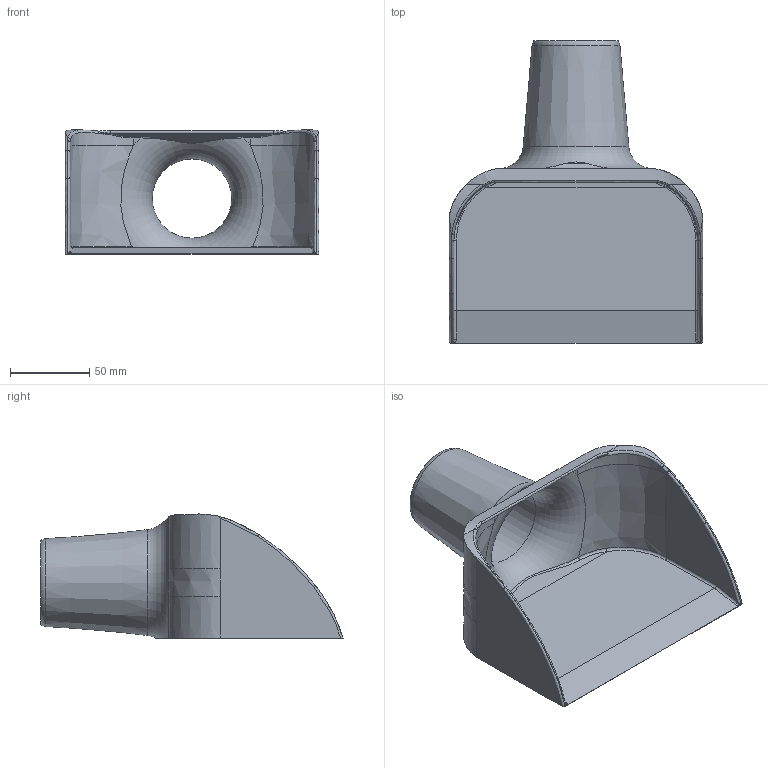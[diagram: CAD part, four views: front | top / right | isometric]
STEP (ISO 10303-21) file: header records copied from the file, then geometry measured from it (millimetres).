
FILE_DESCRIPTION(/* description */ (''),/* implementation_level */ '2;1');
FILE_NAME(/* name */ 'Scoop.step',/* time_stamp */ '2025-12-12T19:40:26-06:00',/* author */ (''),/* organization */ (''),/* preprocessor_version */ 'ST-DEVELOPER v20.1',/* originating_system */ 'Autodesk Translation Framework v14.21.0.0',/* authorisation */ '');
FILE_SCHEMA (('AUTOMOTIVE_DESIGN { 1 0 10303 214 3 1 1 }'));
Length unit declared in the file: millimetre
Products named in the file (2): Medium Scoop 2.0; Medium Scoop 2.5
Assembly tree (1 placements, depth 2):
  Medium Scoop 2.0
    Medium Scoop 2.5
Bounding box: 160 x 190.62 x 78.3 mm (x, y, z)
Volume: 217838.4 mm3; surface area: 99434.6 mm2
Topology: 1 solids, 1 shells, 92 faces, 232 edges, 142 vertices
Faces by surface type: bspline 59, plane 19, cylinder 9, torus 4, cone 1
Full cylindrical faces by diameter (mm): 50 x1
Entity records: 5290 total; most frequent: CARTESIAN_POINT 3464, ORIENTED_EDGE 464, EDGE_CURVE 232, DIRECTION 219, VERTEX_POINT 142, B_SPLINE_CURVE_WITH_KNOTS 141, EDGE_LOOP 94, FACE_OUTER_BOUND 92
